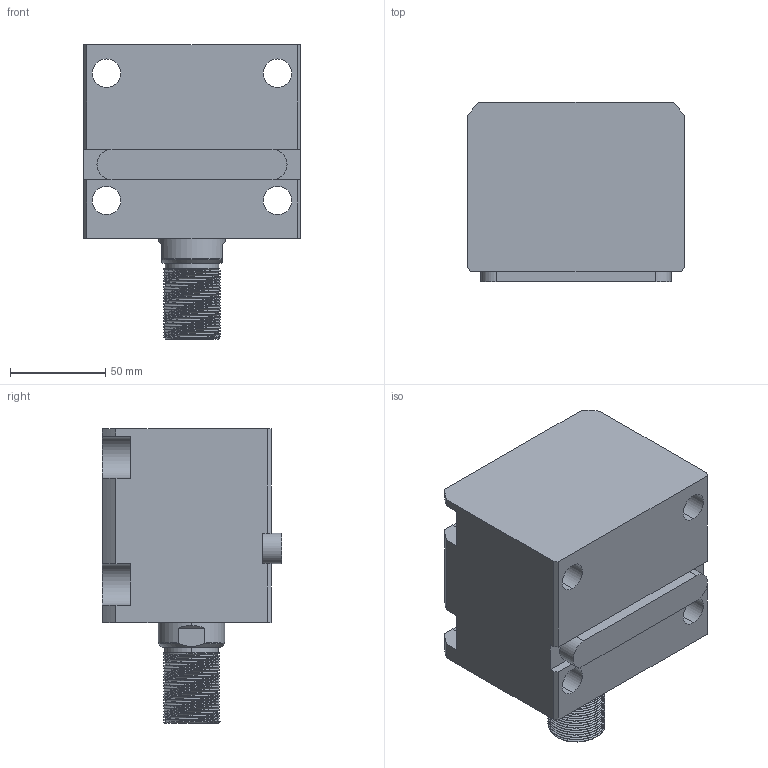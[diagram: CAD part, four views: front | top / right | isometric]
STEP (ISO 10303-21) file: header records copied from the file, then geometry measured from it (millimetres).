
FILE_DESCRIPTION (( 'STEP AP214' ), '1' );
FILE_NAME ('chtb-la63x35w_asm.STEP', '2018-05-17T02:59:52', ( 'Windows' ), ( 'Microsoft' ), 'SwSTEP 2.0', 'SolidWorks 2015', '' );
FILE_SCHEMA (( 'AUTOMOTIVE_DESIGN' ));
Length unit declared in the file: millimetre
Products named in the file (5): CHTB-LA63X35NBT; CHTB-LA63PJ; CHTB63X35WHSG; CHTB-63QG; chtb-la63x35w_asm
Assembly tree (4 placements, depth 2):
  chtb-la63x35w_asm
    CHTB-63QG
    CHTB63X35WHSG
    CHTB-LA63PJ
    CHTB-LA63X35NBT
Bounding box: 114 x 94.5 x 155 mm (x, y, z)
Volume: 919091.9 mm3; surface area: 146607.6 mm2
Topology: 4 solids, 4 shells, 228 faces, 670 edges, 457 vertices
Faces by surface type: cylinder 147, plane 48, bspline 14, cone 13, torus 6
Entity records: 22769 total; most frequent: CARTESIAN_POINT 17126, ORIENTED_EDGE 1332, DIRECTION 940, EDGE_CURVE 666, VERTEX_POINT 457, AXIS2_PLACEMENT_3D 350, EDGE_LOOP 253, LINE 240
